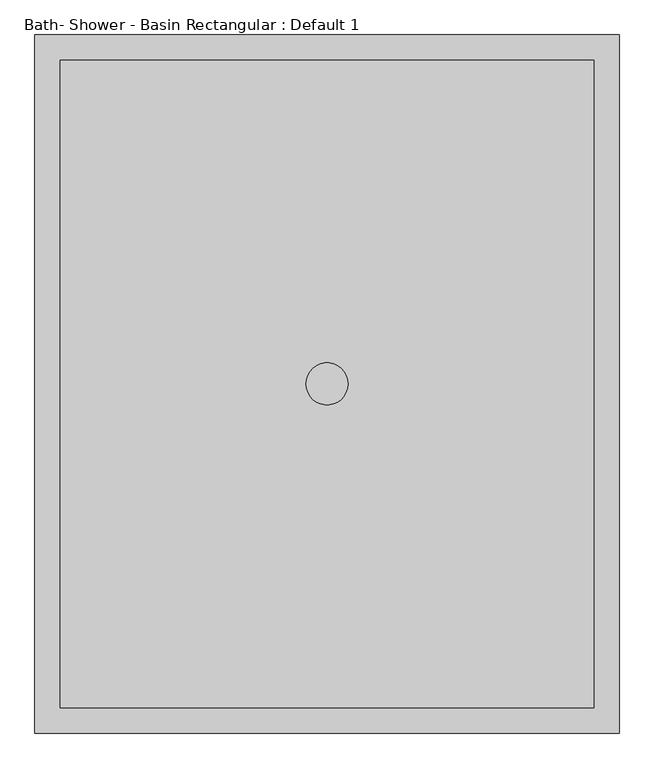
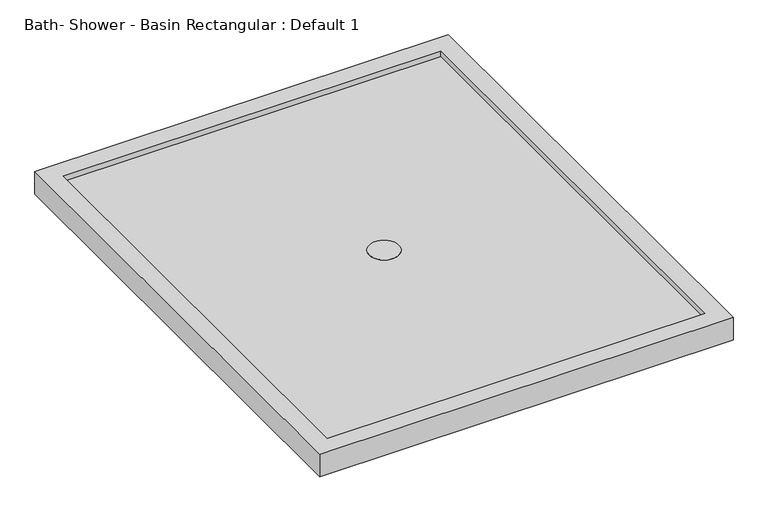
"""IFC4 building model written with IfcOpenShell, lengths in millimetres: flow terminal geometry, Bath- Shower - Basin Rectangular : Default 1."""

from ifc_helpers import new_model, si_unit, point, frame_2d, origin, origin_with_axes, place, context, project, spatial, circle_curve, trimmed, segment, composite_curve, outline, extrude, faceted_brep, source, transform, mapped, element, save


def bath_shower_basin_rectangular_default_1_7944e005(model_context):
    return source(origin(), model_context, "Body", "SolidModel", [
        extrude(outline(composite_curve([segment(trimmed(circle_curve(frame_2d((0.1, 0.15)), 31.75), [point((-31.65, 0.15))], [point((31.85, 0.15))], False, "CARTESIAN"), True, "CONTINUOUS"), segment(trimmed(circle_curve(frame_2d((0.1, 0.15)), 31.75), [point((31.85, 0.15))], [point((-31.65, 0.15))], False, "CARTESIAN"), True, "CONTINUOUS")], self_intersect=False)), origin_with_axes(), (0.0, 0.0, 1.0), 38.1),
        faceted_brep([(441.325, 527.05, 50.8), (-441.325, 527.05, 50.8), (-441.325, -527.05, 50.8), (441.325, -527.05, 50.8), (-403.225, 488.95, 50.8), (403.225, 488.95, 50.8), (403.225, -488.95, 50.8), (-403.225, -488.95, 50.8), (441.325, 527.05, 0.0), (441.325, -527.05, 0.0), (-441.325, -527.05, 0.0), (-441.325, 527.05, 0.0), (403.225, 488.95, 38.1), (-403.225, 488.95, 38.1), (-403.225, -488.95, 38.1), (403.225, -488.95, 38.1)], [[[0, 1, 2, 3], [4, 5, 6, 7]], [[8, 9, 10, 11]], [[1, 0, 8, 11]], [[2, 1, 11, 10]], [[3, 2, 10, 9]], [[0, 3, 9, 8]], [[12, 13, 14, 15]], [[13, 12, 5, 4]], [[14, 13, 4, 7]], [[15, 14, 7, 6]], [[12, 15, 6, 5]]]),
    ])


if __name__ == "__main__":
    model = new_model("IFC4")
    model_context = context("Model", 3, world=origin())
    ifc_project = project(units=[si_unit("LENGTHUNIT", "METRE", prefix="MILLI")], contexts=[model_context])
    site = spatial("IfcSite", under=ifc_project)
    building = spatial("IfcBuilding", under=site)
    placement = place(None, origin())
    bath_shower_basin_rectangular_default_1_shape = bath_shower_basin_rectangular_default_1_7944e005(model_context)
    element("IfcFlowTerminal", 1, ObjectType="Bath- Shower - Basin Rectangular : Default 1", at=placement, inside=building, context=model_context, shape_type="MappedRepresentation", body=[
        mapped(bath_shower_basin_rectangular_default_1_shape, transform((0.0, 0.0, 0.0), x_axis=(1.0, 0.0, 0.0), y_axis=(0.0, 1.0, 0.0), z_axis=(0.0, 0.0, 1.0))),
    ])
    save(model, "model.ifc")
